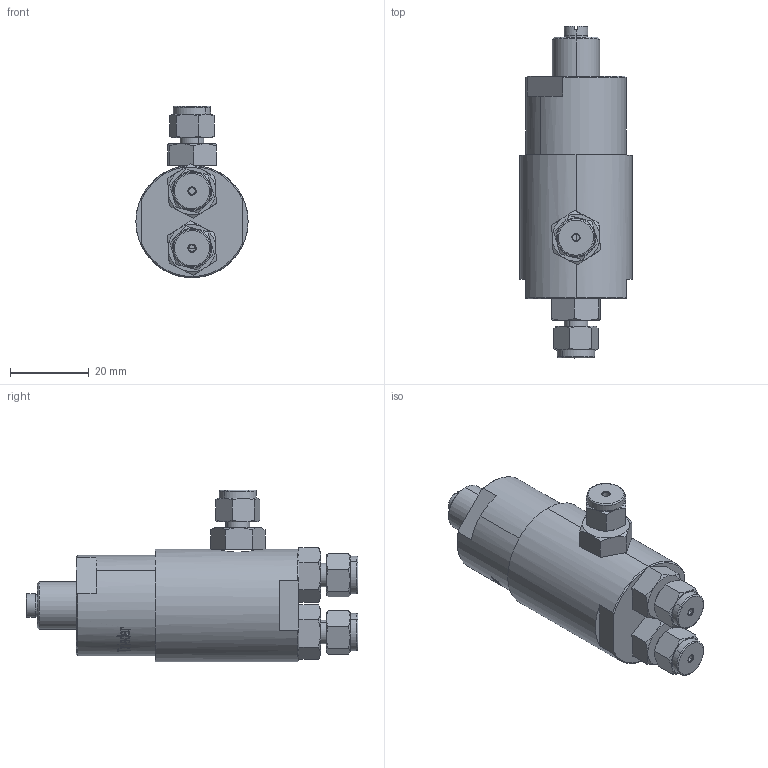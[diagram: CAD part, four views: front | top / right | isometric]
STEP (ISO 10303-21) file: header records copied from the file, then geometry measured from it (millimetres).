
FILE_DESCRIPTION (( 'STEP AP203' ), '1' );
FILE_NAME ('JTF-1-DYZZT.STEP', '2023-05-04T05:59:52', ( '' ), ( '' ), 'SwSTEP 2.0', 'SolidWorks 2016', '' );
FILE_SCHEMA (( 'CONFIG_CONTROL_DESIGN' ));
Length unit declared in the file: millimetre
Products named in the file (1): JTF-1-DYZZT
Bounding box: 28.5 x 84.25 x 43.5 mm (x, y, z)
Surface area: 9321.8 mm2 (no closed solid volume)
Topology: 0 solids, 14 shells, 221 faces, 741 edges, 529 vertices
Faces by surface type: plane 72, cone 71, cylinder 45, bspline 27, torus 6
Entity records: 14500 total; most frequent: CARTESIAN_POINT 8761, ORIENTED_EDGE 1186, DIRECTION 949, EDGE_CURVE 741, VERTEX_POINT 529, AXIS2_PLACEMENT_3D 398, B_SPLINE_CURVE_WITH_KNOTS 385, EDGE_LOOP 253
